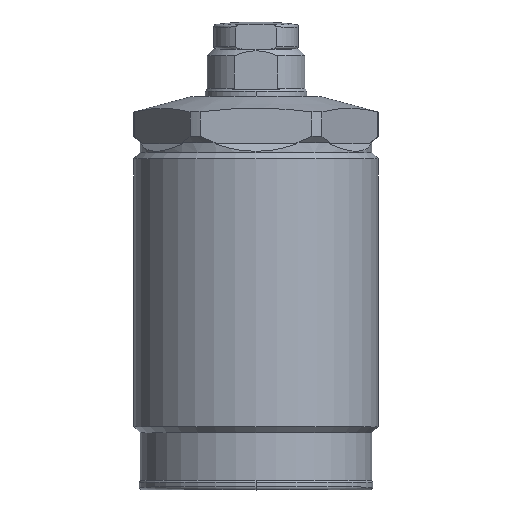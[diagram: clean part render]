
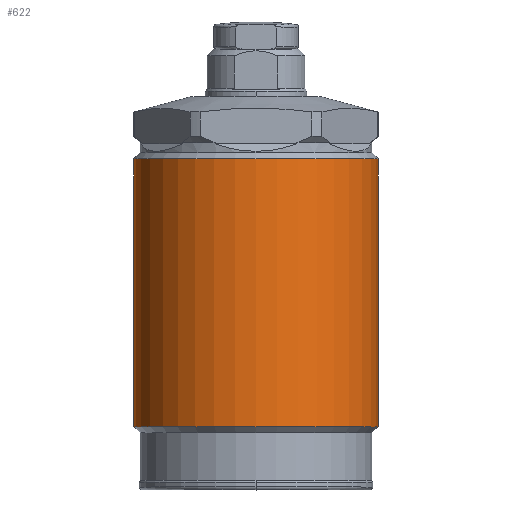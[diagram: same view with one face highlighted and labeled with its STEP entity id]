
A CAD part, top view. The second image highlights one B-rep face of the part: STEP entity #622.
In plain terms, the highlighted cylindrical face has radius 18 mm (diameter 36 mm), a partial arc.
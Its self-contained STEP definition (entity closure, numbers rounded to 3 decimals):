
#298=CYLINDRICAL_SURFACE('',#2582,18.);
#396=LINE('',#4055,#491);
#397=LINE('',#4056,#492);
#491=VECTOR('',#3209,1.);
#492=VECTOR('',#3210,1.);
#622=ADVANCED_FACE('',(#792),#298,.T.);
#792=FACE_OUTER_BOUND('',#934,.T.);
#934=EDGE_LOOP('',(#1386,#1387,#1388,#1389));
#1386=ORIENTED_EDGE('',*,*,#2051,.T.);
#1387=ORIENTED_EDGE('',*,*,#2052,.T.);
#1388=ORIENTED_EDGE('',*,*,#2049,.F.);
#1389=ORIENTED_EDGE('',*,*,#2053,.F.);
#1774=VERTEX_POINT('',#4047);
#1775=VERTEX_POINT('',#4049);
#1776=VERTEX_POINT('',#4053);
#1777=VERTEX_POINT('',#4054);
#2049=EDGE_CURVE('',#1774,#1775,#2301,.T.);
#2051=EDGE_CURVE('',#1776,#1777,#2302,.T.);
#2052=EDGE_CURVE('',#1777,#1775,#396,.T.);
#2053=EDGE_CURVE('',#1776,#1774,#397,.T.);
#2301=CIRCLE('',#2579,18.);
#2302=CIRCLE('',#2581,18.);
#2579=AXIS2_PLACEMENT_3D('',#4048,#3202,#3203);
#2581=AXIS2_PLACEMENT_3D('',#4052,#3207,#3208);
#2582=AXIS2_PLACEMENT_3D('',#4057,#3211,#3212);
#3202=DIRECTION('',(0.,-1.,0.));
#3203=DIRECTION('',(1.,0.,0.));
#3207=DIRECTION('',(0.,-1.,0.));
#3208=DIRECTION('',(1.,0.,0.));
#3209=DIRECTION('',(0.,-1.,0.));
#3210=DIRECTION('',(0.,-1.,0.));
#3211=DIRECTION('',(0.,-1.,0.));
#3212=DIRECTION('',(1.,0.,0.));
#4047=CARTESIAN_POINT('',(18.,-48.7,0.));
#4048=CARTESIAN_POINT('',(0.,-48.7,0.));
#4049=CARTESIAN_POINT('',(-18.,-48.7,0.));
#4052=CARTESIAN_POINT('',(0.,-9.2,0.));
#4053=CARTESIAN_POINT('',(18.,-9.2,0.));
#4054=CARTESIAN_POINT('',(-18.,-9.2,0.));
#4055=CARTESIAN_POINT('',(-18.,1.,0.));
#4056=CARTESIAN_POINT('',(18.,1.,0.));
#4057=CARTESIAN_POINT('',(0.,1.,0.));
